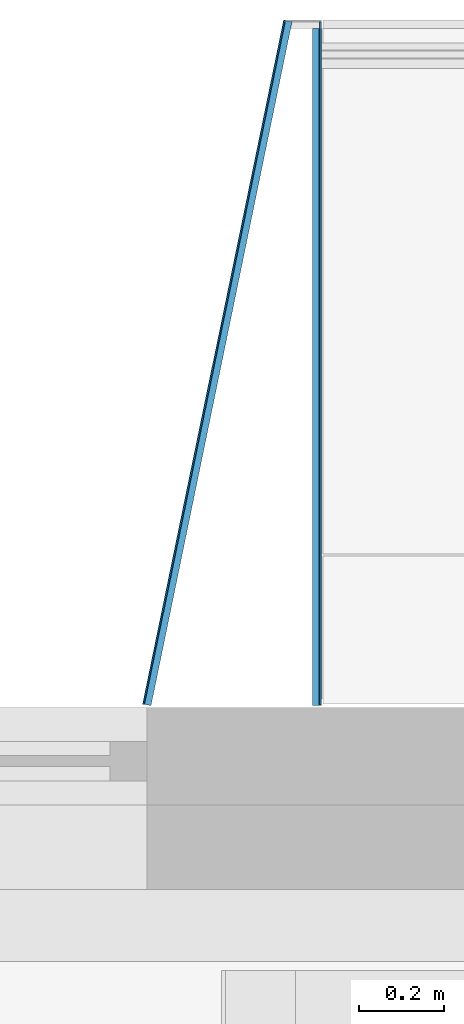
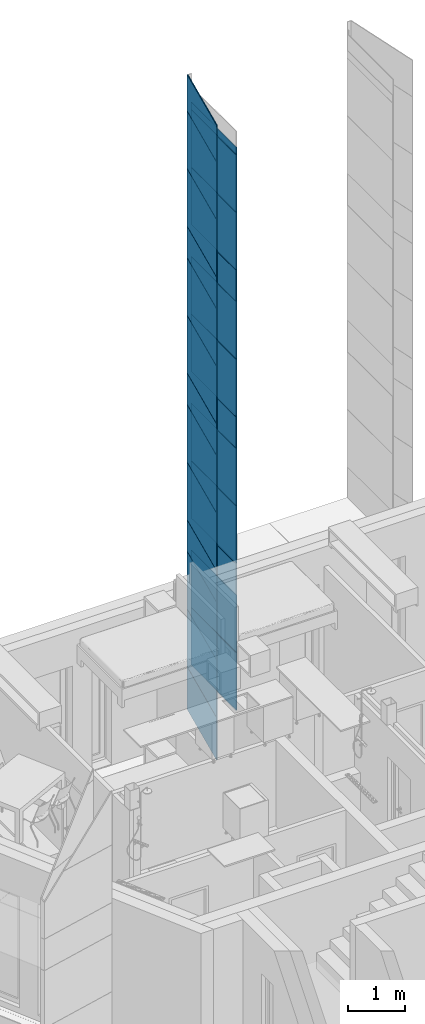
# One storey, part 19 of 125: 47 building element parts, 2 elements without a shape of their own.
"""IFC2X3 building model written with IfcOpenShell, lengths in millimetres."""

from ifc_helpers import new_model, entity, si_unit, converted_unit, direction, frame, frame_2d, origin, place, context, subcontext, project, spatial, polyline, rectangle, outline, extrude, material, type_object, element, aggregate, save


model = new_model("IFC2X3")

# Units and contexts
model_context = context("Model", 3, precision=0.01, world=origin(), true_north=direction((6.123233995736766e-17, 1.0)))
plan_context = context("Plan", 3, precision=0.01, world=origin(), true_north=direction((6.123233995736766e-17, 1.0)))
body_context = subcontext(model_context, "Body", "Model", "MODEL_VIEW")
ifc_project = project(units=[si_unit("LENGTHUNIT", "METRE", prefix="MILLI"), converted_unit("PLANEANGLEUNIT", "DEGREE", entity("IfcPlaneAngleMeasure", 0.017453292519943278), si_unit("PLANEANGLEUNIT", "RADIAN"), dimensions=[0, 0, 0, 0, 0, 0, 0]), si_unit("AREAUNIT", "SQUARE_METRE")], contexts=[model_context, plan_context])

# Site, building, storey
site_placement = place(None, origin())
site = spatial("IfcSite", under=ifc_project, at=site_placement, Name="Default", CompositionType="ELEMENT")
building_placement = place(site_placement, origin())
building = spatial("IfcBuilding", under=site, at=building_placement, CompositionType="ELEMENT")
storey_placement = place(building_placement, frame((0.0, 0.0, 3125.0)))
storey = spatial("IfcBuildingStorey", under=building, at=storey_placement, Name="2K", CompositionType="ELEMENT", Elevation=3125.0)

# Wall, building element parts
wall_type = type_object("IfcWallType", Name="Basic Wall:VS-komposiit", PredefinedType="STANDARD")
wall_1_placement = place(storey_placement, frame((4624.277897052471, 15835.98017322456, -1010.0), z_axis=(0.0, 0.0, 1.0), x_axis=(0.20198267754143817, 0.979389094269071, 0.0)))
wall_1 = element("IfcWall", 1, at=wall_1_placement, inside=storey, type_object=wall_type, Name="Basic Wall:VS-komposiit", ObjectType="Basic Wall:VS-komposiit")
ifc_material_1 = material(Name="_K. Välisviimistlus. Alumiinium-komposiitplaat")
building_element_part_1_placement = place(wall_1_placement, origin())
building_element_part_1 = element("IfcBuildingElementPart", 2, at=building_element_part_1_placement, material=ifc_material_1, Name="Part", context=body_context, shape_type="SweptSolid", body=[
    extrude(outline(polyline([(-168.5140448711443, -807.2019826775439), (-164.4298662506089, -807.2019826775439), (168.4307337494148, 806.7980173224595), (164.513177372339, 807.6059480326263), (-168.5140448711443, -807.2019826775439)])), frame((824.1892700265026, 8.0, 0.0), z_axis=(0.0, 0.0, 1.0), x_axis=(-0.20198267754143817, 0.979389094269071, 0.0)), (0.0, 0.0, 1.0), 922.4999999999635),
])
ifc_material_2 = material(Name="_K. Õhk. Roov. Fassaadikatte alusroov. Horisontaalne. 25 mm")
building_element_part_2_placement = place(wall_1_placement, origin())
building_element_part_2 = element("IfcBuildingElementPart", 3, at=building_element_part_2_placement, material=ifc_material_2, Name="Part", context=body_context, shape_type="SweptSolid", body=[
    extrude(outline(polyline([(-174.43612393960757, -806.2118960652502), (-158.0994094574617, -806.2118960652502), (174.1028794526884, 804.5960346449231), (158.43265394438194, 807.8277574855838), (-174.43612393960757, -806.2118960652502)])), frame((823.1783473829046, -2.0, 0.0), z_axis=(0.0, 0.0, 1.0), x_axis=(-0.20198267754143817, 0.979389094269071, 0.0)), (0.0, 0.0, 1.0), 922.4999999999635),
])
building_element_part_3_placement = place(wall_1_placement, origin())
building_element_part_3 = element("IfcBuildingElementPart", 4, at=building_element_part_3_placement, material=ifc_material_2, Name="Part", context=body_context, shape_type="SweptSolid", body=[
    extrude(outline(polyline([(-174.43612393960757, -806.2118960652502), (-158.09940945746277, -806.2118960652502), (174.1028794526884, 804.5960346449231), (158.43265394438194, 807.8277574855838), (-174.43612393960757, -806.2118960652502)])), frame((823.1783473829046, -2.0, 11682.499999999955), z_axis=(0.0, 0.0, 1.0), x_axis=(-0.20198267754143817, 0.979389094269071, 0.0)), (0.0, 0.0, 1.0), 1240.0000000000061),
])
building_element_part_4_placement = place(wall_1_placement, origin())
building_element_part_4 = element("IfcBuildingElementPart", 5, at=building_element_part_4_placement, material=ifc_material_2, Name="Part", context=body_context, shape_type="SweptSolid", body=[
    extrude(outline(polyline([(-174.43612393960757, -806.2118960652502), (-158.09940945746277, -806.2118960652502), (174.1028794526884, 804.5960346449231), (158.43265394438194, 807.8277574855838), (-174.43612393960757, -806.2118960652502)])), frame((823.1783473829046, -2.0, 12927.499999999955), z_axis=(0.0, 0.0, 1.0), x_axis=(-0.20198267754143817, 0.979389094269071, 0.0)), (0.0, 0.0, 1.0), 783.5000000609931),
])
building_element_part_5_placement = place(wall_1_placement, origin())
building_element_part_5 = element("IfcBuildingElementPart", 6, at=building_element_part_5_placement, material=ifc_material_2, Name="Part", context=body_context, shape_type="SweptSolid", body=[
    extrude(outline(polyline([(-174.43612393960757, -806.2118960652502), (-158.09940945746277, -806.2118960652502), (174.1028794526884, 804.5960346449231), (158.43265394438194, 807.8277574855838), (-174.43612393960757, -806.2118960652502)])), frame((823.1783473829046, -2.0, 9757.499999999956), z_axis=(0.0, 0.0, 1.0), x_axis=(-0.20198267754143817, 0.979389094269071, 0.0)), (0.0, 0.0, 1.0), 675.0000000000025),
])
building_element_part_6_placement = place(wall_1_placement, origin())
building_element_part_6 = element("IfcBuildingElementPart", 7, at=building_element_part_6_placement, material=ifc_material_2, Name="Part", context=body_context, shape_type="SweptSolid", body=[
    extrude(outline(polyline([(-174.43612393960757, -806.2118960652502), (-158.09940945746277, -806.2118960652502), (174.1028794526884, 804.5960346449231), (158.43265394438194, 807.8277574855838), (-174.43612393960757, -806.2118960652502)])), frame((823.1783473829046, -2.0, 10437.499999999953), z_axis=(0.0, 0.0, 1.0), x_axis=(-0.20198267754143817, 0.979389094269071, 0.0)), (0.0, 0.0, 1.0), 1240.0000000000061),
])
building_element_part_7_placement = place(wall_1_placement, origin())
building_element_part_7 = element("IfcBuildingElementPart", 8, at=building_element_part_7_placement, material=ifc_material_2, Name="Part", context=body_context, shape_type="SweptSolid", body=[
    extrude(outline(polyline([(-174.43612393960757, -806.2118960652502), (-158.09940945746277, -806.2118960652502), (174.1028794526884, 804.5960346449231), (158.4326539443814, 807.8277574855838), (-174.43612393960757, -806.2118960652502)])), frame((823.1783473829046, -2.0, 8512.499999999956), z_axis=(0.0, 0.0, 1.0), x_axis=(-0.20198267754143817, 0.979389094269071, 0.0)), (0.0, 0.0, 1.0), 1240.0000000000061),
])
building_element_part_8_placement = place(wall_1_placement, origin())
building_element_part_8 = element("IfcBuildingElementPart", 9, at=building_element_part_8_placement, material=ifc_material_2, Name="Part", context=body_context, shape_type="SweptSolid", body=[
    extrude(outline(polyline([(-174.43612393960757, -806.2118960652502), (-158.09940945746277, -806.2118960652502), (174.1028794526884, 804.5960346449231), (158.43265394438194, 807.8277574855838), (-174.43612393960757, -806.2118960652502)])), frame((823.1783473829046, -2.0, 7267.499999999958), z_axis=(0.0, 0.0, 1.0), x_axis=(-0.20198267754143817, 0.979389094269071, 0.0)), (0.0, 0.0, 1.0), 1240.000000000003),
])
building_element_part_9_placement = place(wall_1_placement, origin())
building_element_part_9 = element("IfcBuildingElementPart", 10, at=building_element_part_9_placement, material=ifc_material_2, Name="Part", context=body_context, shape_type="SweptSolid", body=[
    extrude(outline(polyline([(-174.43612393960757, -806.2118960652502), (-158.0994094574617, -806.2118960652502), (174.1028794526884, 804.5960346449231), (158.43265394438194, 807.8277574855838), (-174.43612393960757, -806.2118960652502)])), frame((823.1783473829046, -2.0, 2172.4999999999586), z_axis=(0.0, 0.0, 1.0), x_axis=(-0.20198267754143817, 0.979389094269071, 0.0)), (0.0, 0.0, 1.0), 1240.0000000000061),
])
building_element_part_10_placement = place(wall_1_placement, origin())
building_element_part_10 = element("IfcBuildingElementPart", 11, at=building_element_part_10_placement, material=ifc_material_2, Name="Part", context=body_context, shape_type="SweptSolid", body=[
    extrude(outline(polyline([(-174.43612393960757, -806.2118960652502), (-158.0994094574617, -806.2118960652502), (174.1028794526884, 804.5960346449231), (158.43265394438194, 807.8277574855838), (-174.43612393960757, -806.2118960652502)])), frame((823.1783473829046, -2.0, 927.499999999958), z_axis=(0.0, 0.0, 1.0), x_axis=(-0.20198267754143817, 0.979389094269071, 0.0)), (0.0, 0.0, 1.0), 1240.0000000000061),
])
building_element_part_11_placement = place(wall_1_placement, origin())
building_element_part_11 = element("IfcBuildingElementPart", 12, at=building_element_part_11_placement, material=ifc_material_2, Name="Part", context=body_context, shape_type="SweptSolid", body=[
    extrude(outline(polyline([(-174.43612393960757, -806.2118960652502), (-158.0994094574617, -806.2118960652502), (174.1028794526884, 804.5960346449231), (158.43265394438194, 807.8277574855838), (-174.43612393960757, -806.2118960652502)])), frame((823.1783473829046, -2.0, 3417.499999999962), z_axis=(0.0, 0.0, 1.0), x_axis=(-0.20198267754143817, 0.979389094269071, 0.0)), (0.0, 0.0, 1.0), 675.0000000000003),
])
building_element_part_12_placement = place(wall_1_placement, origin())
building_element_part_12 = element("IfcBuildingElementPart", 13, at=building_element_part_12_placement, material=ifc_material_2, Name="Part", context=body_context, shape_type="SweptSolid", body=[
    extrude(outline(polyline([(-174.43612393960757, -806.2118960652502), (-158.0994094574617, -806.2118960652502), (174.1028794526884, 804.5960346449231), (158.4326539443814, 807.8277574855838), (-174.43612393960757, -806.2118960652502)])), frame((823.1783473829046, -2.0, 6587.499999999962), z_axis=(0.0, 0.0, 1.0), x_axis=(-0.20198267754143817, 0.979389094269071, 0.0)), (0.0, 0.0, 1.0), 674.9999999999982),
])
building_element_part_13_placement = place(wall_1_placement, origin())
building_element_part_13 = element("IfcBuildingElementPart", 14, at=building_element_part_13_placement, material=ifc_material_2, Name="Part", context=body_context, shape_type="SweptSolid", body=[
    extrude(outline(polyline([(-174.43612393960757, -806.2118960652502), (-158.0994094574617, -806.2118960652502), (174.1028794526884, 804.5960346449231), (158.43265394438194, 807.8277574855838), (-174.43612393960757, -806.2118960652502)])), frame((823.1783473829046, -2.0, 5342.499999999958), z_axis=(0.0, 0.0, 1.0), x_axis=(-0.20198267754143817, 0.979389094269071, 0.0)), (0.0, 0.0, 1.0), 1240.000000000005),
])
building_element_part_14_placement = place(wall_1_placement, origin())
building_element_part_14 = element("IfcBuildingElementPart", 15, at=building_element_part_14_placement, material=ifc_material_2, Name="Part", context=body_context, shape_type="SweptSolid", body=[
    extrude(outline(polyline([(-174.43612393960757, -806.2118960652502), (-158.0994094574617, -806.2118960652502), (174.1028794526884, 804.5960346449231), (158.43265394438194, 807.8277574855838), (-174.43612393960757, -806.2118960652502)])), frame((823.1783473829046, -2.0, 4097.49999999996), z_axis=(0.0, 0.0, 1.0), x_axis=(-0.20198267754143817, 0.979389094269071, 0.0)), (0.0, 0.0, 1.0), 1240.000000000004),
])
building_element_part_15_placement = place(wall_1_placement, origin())
building_element_part_15 = element("IfcBuildingElementPart", 16, at=building_element_part_15_placement, material=ifc_material_1, Name="Part", context=body_context, shape_type="SweptSolid", body=[
    extrude(outline(polyline([(-168.5140448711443, -807.2019826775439), (-164.4298662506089, -807.2019826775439), (168.4307337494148, 806.7980173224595), (164.513177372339, 807.6059480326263), (-168.5140448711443, -807.2019826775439)])), frame((824.1892700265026, 8.0, 11682.499999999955), z_axis=(0.0, 0.0, 1.0), x_axis=(-0.20198267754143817, 0.979389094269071, 0.0)), (0.0, 0.0, 1.0), 1240.0000000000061),
])
building_element_part_16_placement = place(wall_1_placement, origin())
building_element_part_16 = element("IfcBuildingElementPart", 17, at=building_element_part_16_placement, material=ifc_material_1, Name="Part", context=body_context, shape_type="SweptSolid", body=[
    extrude(outline(polyline([(-168.5140448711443, -807.2019826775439), (-164.4298662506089, -807.2019826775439), (168.4307337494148, 806.7980173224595), (164.513177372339, 807.6059480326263), (-168.5140448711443, -807.2019826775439)])), frame((824.1892700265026, 8.0, 12927.499999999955), z_axis=(0.0, 0.0, 1.0), x_axis=(-0.20198267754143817, 0.979389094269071, 0.0)), (0.0, 0.0, 1.0), 783.5000000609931),
])
building_element_part_17_placement = place(wall_1_placement, origin())
building_element_part_17 = element("IfcBuildingElementPart", 18, at=building_element_part_17_placement, material=ifc_material_1, Name="Part", context=body_context, shape_type="SweptSolid", body=[
    extrude(outline(polyline([(-168.5140448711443, -807.2019826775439), (-164.4298662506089, -807.2019826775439), (168.4307337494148, 806.7980173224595), (164.51317737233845, 807.6059480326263), (-168.5140448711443, -807.2019826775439)])), frame((824.1892700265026, 8.0, 9757.499999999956), z_axis=(0.0, 0.0, 1.0), x_axis=(-0.20198267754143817, 0.979389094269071, 0.0)), (0.0, 0.0, 1.0), 675.0000000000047),
])
building_element_part_18_placement = place(wall_1_placement, origin())
building_element_part_18 = element("IfcBuildingElementPart", 19, at=building_element_part_18_placement, material=ifc_material_1, Name="Part", context=body_context, shape_type="SweptSolid", body=[
    extrude(outline(polyline([(-168.5140448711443, -807.2019826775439), (-164.4298662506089, -807.2019826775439), (168.4307337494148, 806.7980173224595), (164.513177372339, 807.6059480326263), (-168.5140448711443, -807.2019826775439)])), frame((824.1892700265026, 8.0, 10437.499999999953), z_axis=(0.0, 0.0, 1.0), x_axis=(-0.20198267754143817, 0.979389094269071, 0.0)), (0.0, 0.0, 1.0), 1240.0000000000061),
])
building_element_part_19_placement = place(wall_1_placement, origin())
building_element_part_19 = element("IfcBuildingElementPart", 20, at=building_element_part_19_placement, material=ifc_material_1, Name="Part", context=body_context, shape_type="SweptSolid", body=[
    extrude(outline(polyline([(-168.5140448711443, -807.2019826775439), (-164.4298662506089, -807.2019826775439), (168.4307337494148, 806.7980173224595), (164.513177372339, 807.6059480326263), (-168.5140448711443, -807.2019826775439)])), frame((824.1892700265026, 8.0, 8512.499999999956), z_axis=(0.0, 0.0, 1.0), x_axis=(-0.20198267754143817, 0.979389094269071, 0.0)), (0.0, 0.0, 1.0), 1240.0000000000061),
])
building_element_part_20_placement = place(wall_1_placement, origin())
building_element_part_20 = element("IfcBuildingElementPart", 21, at=building_element_part_20_placement, material=ifc_material_1, Name="Part", context=body_context, shape_type="SweptSolid", body=[
    extrude(outline(polyline([(-168.5140448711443, -807.2019826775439), (-164.4298662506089, -807.2019826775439), (168.4307337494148, 806.7980173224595), (164.513177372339, 807.6059480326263), (-168.5140448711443, -807.2019826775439)])), frame((824.1892700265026, 8.0, 7267.499999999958), z_axis=(0.0, 0.0, 1.0), x_axis=(-0.20198267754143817, 0.979389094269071, 0.0)), (0.0, 0.0, 1.0), 1240.000000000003),
])
building_element_part_21_placement = place(wall_1_placement, origin())
building_element_part_21 = element("IfcBuildingElementPart", 22, at=building_element_part_21_placement, material=ifc_material_1, Name="Part", context=body_context, shape_type="SweptSolid", body=[
    extrude(outline(polyline([(-168.5140448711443, -807.2019826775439), (-164.4298662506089, -807.2019826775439), (168.4307337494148, 806.7980173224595), (164.513177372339, 807.6059480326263), (-168.5140448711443, -807.2019826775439)])), frame((824.1892700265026, 8.0, 2172.4999999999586), z_axis=(0.0, 0.0, 1.0), x_axis=(-0.20198267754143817, 0.979389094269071, 0.0)), (0.0, 0.0, 1.0), 1240.0000000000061),
])
building_element_part_22_placement = place(wall_1_placement, origin())
building_element_part_22 = element("IfcBuildingElementPart", 23, at=building_element_part_22_placement, material=ifc_material_1, Name="Part", context=body_context, shape_type="SweptSolid", body=[
    extrude(outline(polyline([(-168.5140448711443, -807.2019826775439), (-164.4298662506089, -807.2019826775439), (168.4307337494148, 806.7980173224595), (164.51317737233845, 807.6059480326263), (-168.5140448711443, -807.2019826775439)])), frame((824.1892700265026, 8.0, 927.4999999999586), z_axis=(0.0, 0.0, 1.0), x_axis=(-0.20198267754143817, 0.979389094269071, 0.0)), (0.0, 0.0, 1.0), 1240.0000000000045),
])
building_element_part_23_placement = place(wall_1_placement, origin())
building_element_part_23 = element("IfcBuildingElementPart", 24, at=building_element_part_23_placement, material=ifc_material_1, Name="Part", context=body_context, shape_type="SweptSolid", body=[
    extrude(outline(polyline([(-168.5140448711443, -807.2019826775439), (-164.4298662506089, -807.2019826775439), (168.4307337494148, 806.7980173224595), (164.51317737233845, 807.6059480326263), (-168.5140448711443, -807.2019826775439)])), frame((824.1892700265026, 8.0, 3417.4999999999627), z_axis=(0.0, 0.0, 1.0), x_axis=(-0.20198267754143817, 0.979389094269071, 0.0)), (0.0, 0.0, 1.0), 674.9999999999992),
])
building_element_part_24_placement = place(wall_1_placement, origin())
building_element_part_24 = element("IfcBuildingElementPart", 25, at=building_element_part_24_placement, material=ifc_material_1, Name="Part", context=body_context, shape_type="SweptSolid", body=[
    extrude(outline(polyline([(-168.5140448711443, -807.2019826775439), (-164.4298662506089, -807.2019826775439), (168.4307337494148, 806.7980173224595), (164.513177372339, 807.6059480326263), (-168.5140448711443, -807.2019826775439)])), frame((824.1892700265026, 8.0, 6587.499999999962), z_axis=(0.0, 0.0, 1.0), x_axis=(-0.20198267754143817, 0.979389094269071, 0.0)), (0.0, 0.0, 1.0), 674.9999999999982),
])
building_element_part_25_placement = place(wall_1_placement, origin())
building_element_part_25 = element("IfcBuildingElementPart", 26, at=building_element_part_25_placement, material=ifc_material_1, Name="Part", context=body_context, shape_type="SweptSolid", body=[
    extrude(outline(polyline([(-168.5140448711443, -807.2019826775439), (-164.4298662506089, -807.2019826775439), (168.4307337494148, 806.7980173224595), (164.513177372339, 807.6059480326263), (-168.5140448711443, -807.2019826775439)])), frame((824.1892700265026, 8.0, 5342.499999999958), z_axis=(0.0, 0.0, 1.0), x_axis=(-0.20198267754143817, 0.979389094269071, 0.0)), (0.0, 0.0, 1.0), 1240.0000000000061),
])
building_element_part_26_placement = place(wall_1_placement, origin())
building_element_part_26 = element("IfcBuildingElementPart", 27, at=building_element_part_26_placement, material=ifc_material_1, Name="Part", context=body_context, shape_type="SweptSolid", body=[
    extrude(outline(polyline([(-168.5140448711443, -807.2019826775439), (-164.4298662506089, -807.2019826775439), (168.4307337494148, 806.7980173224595), (164.513177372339, 807.6059480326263), (-168.5140448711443, -807.2019826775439)])), frame((824.1892700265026, 8.0, 4097.499999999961), z_axis=(0.0, 0.0, 1.0), x_axis=(-0.20198267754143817, 0.979389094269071, 0.0)), (0.0, 0.0, 1.0), 1240.000000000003),
])
aggregate(wall_1, [building_element_part_1, building_element_part_2, building_element_part_3, building_element_part_4, building_element_part_5, building_element_part_6, building_element_part_7, building_element_part_8, building_element_part_9, building_element_part_10, building_element_part_11, building_element_part_12, building_element_part_13, building_element_part_14, building_element_part_15, building_element_part_16, building_element_part_17, building_element_part_18, building_element_part_19, building_element_part_20, building_element_part_21, building_element_part_22, building_element_part_23, building_element_part_24, building_element_part_25, building_element_part_26])

wall_2_placement = place(storey_placement, frame((5025.4165884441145, 17432.0, -1010.0), z_axis=(0.0, 0.0, 1.0), x_axis=(0.0, -1.0, 0.0)))
wall_2 = element("IfcWall", 28, at=wall_2_placement, inside=storey, type_object=wall_type, Name="Basic Wall:VS-komposiit", ObjectType="Basic Wall:VS-komposiit")
building_element_part_27_placement = place(wall_2_placement, origin())
building_element_part_27 = element("IfcBuildingElementPart", 29, at=building_element_part_27_placement, material=ifc_material_2, Name="Part", context=body_context, shape_type="SweptSolid", body=[
    extrude(rectangle(XDim=1596.9999999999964, YDim=15.99999999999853, at=frame_2d((0.0, 5.413447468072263e-13), x_axis=(1.0, 0.0))), frame((798.4999999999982, -2.0, 3417.4999999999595)), (0.0, 0.0, 1.0), 675.0000000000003),
])
building_element_part_28_placement = place(wall_2_placement, origin())
building_element_part_28 = element("IfcBuildingElementPart", 30, at=building_element_part_28_placement, material=ifc_material_2, Name="Part", context=body_context, shape_type="SweptSolid", body=[
    extrude(rectangle(XDim=1596.9999999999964, YDim=15.99999999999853, at=frame_2d((0.0, 5.413447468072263e-13), x_axis=(1.0, 0.0))), frame((798.4999999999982, -2.0, 4097.499999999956)), (0.0, 0.0, 1.0), 1240.000000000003),
])
building_element_part_29_placement = place(wall_2_placement, origin())
building_element_part_29 = element("IfcBuildingElementPart", 31, at=building_element_part_29_placement, material=ifc_material_2, Name="Part", context=body_context, shape_type="SweptSolid", body=[
    extrude(rectangle(XDim=1596.9999999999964, YDim=15.99999999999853, at=frame_2d((0.0, 5.413447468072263e-13), x_axis=(1.0, 0.0))), frame((798.4999999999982, -2.0, 2172.499999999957)), (0.0, 0.0, 1.0), 1240.0000000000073),
])
building_element_part_30_placement = place(wall_2_placement, origin())
building_element_part_30 = element("IfcBuildingElementPart", 32, at=building_element_part_30_placement, material=ifc_material_2, Name="Part", context=body_context, shape_type="SweptSolid", body=[
    extrude(rectangle(XDim=1596.9999999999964, YDim=15.99999999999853, at=frame_2d((0.0, 5.413447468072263e-13), x_axis=(1.0, 0.0))), frame((798.4999999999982, -2.0, 6587.499999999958)), (0.0, 0.0, 1.0), 674.9999999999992),
])
building_element_part_31_placement = place(wall_2_placement, origin())
building_element_part_31 = element("IfcBuildingElementPart", 33, at=building_element_part_31_placement, material=ifc_material_2, Name="Part", context=body_context, shape_type="SweptSolid", body=[
    extrude(rectangle(XDim=1596.9999999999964, YDim=15.99999999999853, at=frame_2d((0.0, 5.413447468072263e-13), x_axis=(1.0, 0.0))), frame((798.4999999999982, -2.0, 7267.4999999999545)), (0.0, 0.0, 1.0), 1240.0000000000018),
])
building_element_part_32_placement = place(wall_2_placement, origin())
building_element_part_32 = element("IfcBuildingElementPart", 34, at=building_element_part_32_placement, material=ifc_material_2, Name="Part", context=body_context, shape_type="SweptSolid", body=[
    extrude(rectangle(XDim=1596.9999999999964, YDim=15.99999999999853, at=frame_2d((0.0, 5.413447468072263e-13), x_axis=(1.0, 0.0))), frame((798.4999999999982, -2.0, 5342.499999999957)), (0.0, 0.0, 1.0), 1240.000000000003),
])
building_element_part_33_placement = place(wall_2_placement, origin())
building_element_part_33 = element("IfcBuildingElementPart", 35, at=building_element_part_33_placement, material=ifc_material_2, Name="Part", context=body_context, shape_type="SweptSolid", body=[
    extrude(rectangle(XDim=1596.9999999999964, YDim=15.99999999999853, at=frame_2d((0.0, 5.413447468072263e-13), x_axis=(1.0, 0.0))), frame((798.4999999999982, -2.0, 927.4999999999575)), (0.0, 0.0, 1.0), 1240.0000000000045),
])
building_element_part_34_placement = place(wall_2_placement, origin())
building_element_part_34 = element("IfcBuildingElementPart", 36, at=building_element_part_34_placement, material=ifc_material_2, Name="Part", context=body_context, shape_type="SweptSolid", body=[
    extrude(rectangle(XDim=1596.9999999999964, YDim=15.99999999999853, at=frame_2d((0.0, 5.413447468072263e-13), x_axis=(1.0, 0.0))), frame((798.4999999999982, -2.0, 11682.49999999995)), (0.0, 0.0, 1.0), 1240.000000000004),
])
building_element_part_35_placement = place(wall_2_placement, origin())
building_element_part_35 = element("IfcBuildingElementPart", 37, at=building_element_part_35_placement, material=ifc_material_2, Name="Part", context=body_context, shape_type="SweptSolid", body=[
    extrude(rectangle(XDim=1596.9999999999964, YDim=15.99999999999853, at=frame_2d((0.0, 5.413447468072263e-13), x_axis=(1.0, 0.0))), frame((798.4999999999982, -2.0, 9757.499999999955)), (0.0, 0.0, 1.0), 675.0000000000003),
])
building_element_part_36_placement = place(wall_2_placement, origin())
building_element_part_36 = element("IfcBuildingElementPart", 38, at=building_element_part_36_placement, material=ifc_material_2, Name="Part", context=body_context, shape_type="SweptSolid", body=[
    extrude(rectangle(XDim=1596.9999999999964, YDim=15.99999999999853, at=frame_2d((0.0, 5.413447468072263e-13), x_axis=(1.0, 0.0))), frame((798.4999999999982, -2.0, 8512.499999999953)), (0.0, 0.0, 1.0), 1240.000000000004),
])
building_element_part_37_placement = place(wall_2_placement, origin())
building_element_part_37 = element("IfcBuildingElementPart", 39, at=building_element_part_37_placement, material=ifc_material_2, Name="Part", context=body_context, shape_type="SweptSolid", body=[
    extrude(rectangle(XDim=1596.9999999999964, YDim=15.99999999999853, at=frame_2d((0.0, 5.413447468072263e-13), x_axis=(1.0, 0.0))), frame((798.4999999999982, -2.0, 10437.49999999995)), (0.0, 0.0, 1.0), 1240.000000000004),
])
building_element_part_38_placement = place(wall_2_placement, origin())
building_element_part_38 = element("IfcBuildingElementPart", 40, at=building_element_part_38_placement, material=ifc_material_1, Name="Part", context=body_context, shape_type="SweptSolid", body=[
    extrude(rectangle(XDim=1612.999999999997, YDim=4.000000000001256, at=frame_2d((0.0, -5.415667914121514e-13), x_axis=(1.0, 0.0))), frame((790.4999999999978, 8.0, 4097.499999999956)), (0.0, 0.0, 1.0), 1240.000000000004),
])
building_element_part_39_placement = place(wall_2_placement, origin())
building_element_part_39 = element("IfcBuildingElementPart", 41, at=building_element_part_39_placement, material=ifc_material_1, Name="Part", context=body_context, shape_type="SweptSolid", body=[
    extrude(rectangle(XDim=1612.999999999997, YDim=4.000000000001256, at=frame_2d((0.0, -5.415667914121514e-13), x_axis=(1.0, 0.0))), frame((790.4999999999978, 8.0, 2172.499999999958)), (0.0, 0.0, 1.0), 1240.0000000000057),
])
building_element_part_40_placement = place(wall_2_placement, origin())
building_element_part_40 = element("IfcBuildingElementPart", 42, at=building_element_part_40_placement, material=ifc_material_1, Name="Part", context=body_context, shape_type="SweptSolid", body=[
    extrude(rectangle(XDim=1612.999999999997, YDim=4.000000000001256, at=frame_2d((0.0, -5.415667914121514e-13), x_axis=(1.0, 0.0))), frame((790.4999999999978, 8.0, 7267.4999999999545)), (0.0, 0.0, 1.0), 1240.0000000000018),
])
building_element_part_41_placement = place(wall_2_placement, origin())
building_element_part_41 = element("IfcBuildingElementPart", 43, at=building_element_part_41_placement, material=ifc_material_1, Name="Part", context=body_context, shape_type="SweptSolid", body=[
    extrude(rectangle(XDim=1612.999999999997, YDim=4.000000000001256, at=frame_2d((0.0, -5.415667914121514e-13), x_axis=(1.0, 0.0))), frame((790.4999999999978, 8.0, 5342.499999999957)), (0.0, 0.0, 1.0), 1240.000000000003),
])
building_element_part_42_placement = place(wall_2_placement, origin())
building_element_part_42 = element("IfcBuildingElementPart", 44, at=building_element_part_42_placement, material=ifc_material_1, Name="Part", context=body_context, shape_type="SweptSolid", body=[
    extrude(rectangle(XDim=1612.999999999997, YDim=4.000000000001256, at=frame_2d((0.0, -5.415667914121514e-13), x_axis=(1.0, 0.0))), frame((790.4999999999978, 8.0, 927.4999999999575)), (0.0, 0.0, 1.0), 1240.000000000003),
])
building_element_part_43_placement = place(wall_2_placement, origin())
building_element_part_43 = element("IfcBuildingElementPart", 45, at=building_element_part_43_placement, material=ifc_material_1, Name="Part", context=body_context, shape_type="SweptSolid", body=[
    extrude(rectangle(XDim=1612.9999999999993, YDim=4.000000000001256, at=frame_2d((0.0, -5.415667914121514e-13), x_axis=(1.0, 0.0))), frame((790.4999999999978, 8.0, 11682.49999999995)), (0.0, 0.0, 1.0), 1240.000000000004),
])
building_element_part_44_placement = place(wall_2_placement, origin())
building_element_part_44 = element("IfcBuildingElementPart", 46, at=building_element_part_44_placement, material=ifc_material_1, Name="Part", context=body_context, shape_type="SweptSolid", body=[
    extrude(rectangle(XDim=1612.999999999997, YDim=4.000000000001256, at=frame_2d((0.0, -5.415667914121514e-13), x_axis=(1.0, 0.0))), frame((790.4999999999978, 8.0, 8512.499999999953)), (0.0, 0.0, 1.0), 1240.000000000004),
])
building_element_part_45_placement = place(wall_2_placement, origin())
building_element_part_45 = element("IfcBuildingElementPart", 47, at=building_element_part_45_placement, material=ifc_material_1, Name="Part", context=body_context, shape_type="SweptSolid", body=[
    extrude(rectangle(XDim=1612.999999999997, YDim=4.000000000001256, at=frame_2d((0.0, -5.415667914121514e-13), x_axis=(1.0, 0.0))), frame((790.4999999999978, 8.0, 10437.49999999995)), (0.0, 0.0, 1.0), 1240.000000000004),
])
building_element_part_46_placement = place(wall_2_placement, origin())
building_element_part_46 = element("IfcBuildingElementPart", 48, at=building_element_part_46_placement, material=ifc_material_2, Name="Part", context=body_context, shape_type="SweptSolid", body=[
    extrude(rectangle(XDim=1596.9999999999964, YDim=15.99999999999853, at=frame_2d((0.0, 5.413447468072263e-13), x_axis=(1.0, 0.0))), frame((798.4999999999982, -2.0, 12927.499999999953)), (0.0, 0.0, 1.0), 163.50000006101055),
])
building_element_part_47_placement = place(wall_2_placement, origin())
building_element_part_47 = element("IfcBuildingElementPart", 49, at=building_element_part_47_placement, material=ifc_material_1, Name="Part", context=body_context, shape_type="SweptSolid", body=[
    extrude(rectangle(XDim=1612.999999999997, YDim=4.000000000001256, at=frame_2d((0.0, -5.415667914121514e-13), x_axis=(1.0, 0.0))), frame((790.4999999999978, 8.0, 12927.499999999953)), (0.0, 0.0, 1.0), 163.50000006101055),
])
aggregate(wall_2, [building_element_part_27, building_element_part_28, building_element_part_29, building_element_part_30, building_element_part_31, building_element_part_32, building_element_part_33, building_element_part_34, building_element_part_35, building_element_part_36, building_element_part_37, building_element_part_38, building_element_part_39, building_element_part_40, building_element_part_41, building_element_part_42, building_element_part_43, building_element_part_44, building_element_part_45, building_element_part_46, building_element_part_47])

save(model, "model.ifc")
